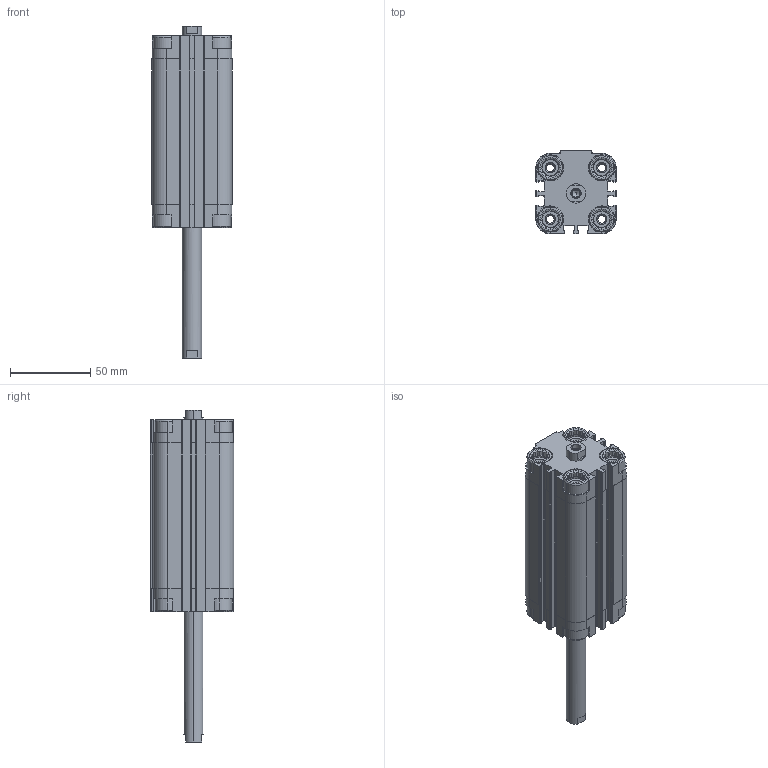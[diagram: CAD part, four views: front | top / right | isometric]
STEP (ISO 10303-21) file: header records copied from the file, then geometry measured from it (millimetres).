
FILE_DESCRIPTION (( 'STEP AP203' ), '1' );
FILE_NAME ('CDVU32-75F-P.STEP', '2020-07-24T18:13:02', ( '' ), ( '' ), 'SwSTEP 2.0', 'SolidWorks 2019', '' );
FILE_SCHEMA (( 'CONFIG_CONTROL_DESIGN' ));
Length unit declared in the file: millimetre
Products named in the file (1): CDVU32-75F-P
Bounding box: 50 x 52 x 206.5 mm (x, y, z)
Volume: 201654.2 mm3; surface area: 72320.2 mm2
Topology: 2 solids, 2 shells, 722 faces, 1928 edges, 1244 vertices
Faces by surface type: plane 422, cylinder 236, cone 64
Entity records: 22623 total; most frequent: CARTESIAN_POINT 4463, ORIENTED_EDGE 3840, DIRECTION 3710, EDGE_CURVE 1920, AXIS2_PLACEMENT_3D 1259, VERTEX_POINT 1244, LINE 1192, VECTOR 1192
